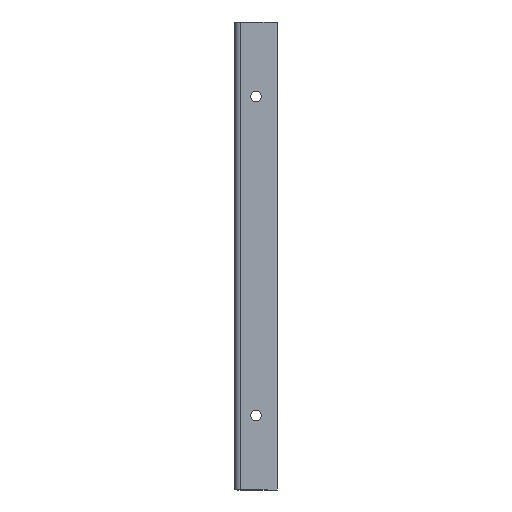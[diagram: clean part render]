
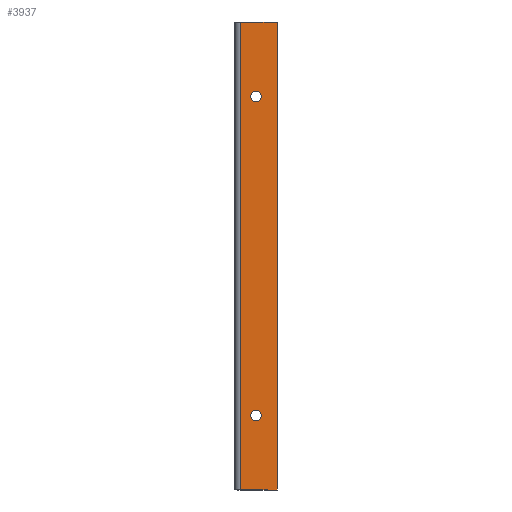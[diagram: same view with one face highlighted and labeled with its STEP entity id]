
A CAD part, front view. The second image highlights one B-rep face of the part: STEP entity #3937.
In plain terms, the highlighted planar face has unit normal (0, -1, 0).
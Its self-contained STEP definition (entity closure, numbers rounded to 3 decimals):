
#183 = CIRCLE ( 'NONE', #2557, 2.5 ) ;
#226 = DIRECTION ( 'NONE',  ( 0., -1., 0. ) ) ;
#238 = LINE ( 'NONE', #1381, #1049 ) ;
#325 = CARTESIAN_POINT ( 'NONE',  ( 120., -2., -120. ) ) ;
#341 = CIRCLE ( 'NONE', #4380, 2.5 ) ;
#410 = CARTESIAN_POINT ( 'NONE',  ( 102.736, -2., 100. ) ) ;
#418 = CARTESIAN_POINT ( 'NONE',  ( 120., -2., 100. ) ) ;
#544 = EDGE_CURVE ( 'NONE', #6495, #3297, #341, .T. ) ;
#555 = DIRECTION ( 'NONE',  ( 0., 0., -1. ) ) ;
#681 = CARTESIAN_POINT ( 'NONE',  ( 110., -2., 67.5 ) ) ;
#733 = ORIENTED_EDGE ( 'NONE', *, *, #544, .F. ) ;
#917 = VERTEX_POINT ( 'NONE', #3060 ) ;
#962 = DIRECTION ( 'NONE',  ( 0., 0., -1. ) ) ;
#1049 = VECTOR ( 'NONE', #5491, 1000. ) ;
#1334 = AXIS2_PLACEMENT_3D ( 'NONE', #3384, #3989, #555 ) ;
#1381 = CARTESIAN_POINT ( 'NONE',  ( 120., -2., -120. ) ) ;
#1423 = LINE ( 'NONE', #418, #6175 ) ;
#1633 = DIRECTION ( 'NONE',  ( 0., 0., -1. ) ) ;
#1835 = CIRCLE ( 'NONE', #1334, 2.5 ) ;
#1848 = ORIENTED_EDGE ( 'NONE', *, *, #3679, .F. ) ;
#1890 = CARTESIAN_POINT ( 'NONE',  ( 102.736, -2., -120. ) ) ;
#1916 = ORIENTED_EDGE ( 'NONE', *, *, #2168, .F. ) ;
#1997 = VERTEX_POINT ( 'NONE', #4488 ) ;
#2101 = FACE_BOUND ( 'NONE', #5511, .T. ) ;
#2168 = EDGE_CURVE ( 'NONE', #6797, #2183, #238, .T. ) ;
#2183 = VERTEX_POINT ( 'NONE', #1890 ) ;
#2338 = VECTOR ( 'NONE', #3847, 1000. ) ;
#2455 = EDGE_CURVE ( 'NONE', #1997, #2183, #4396, .T. ) ;
#2557 = AXIS2_PLACEMENT_3D ( 'NONE', #2563, #6037, #7195 ) ;
#2563 = CARTESIAN_POINT ( 'NONE',  ( 110., -2., 65. ) ) ;
#2617 = EDGE_LOOP ( 'NONE', ( #4981, #733 ) ) ;
#2691 = EDGE_LOOP ( 'NONE', ( #3042, #3143, #1916, #7392 ) ) ;
#3042 = ORIENTED_EDGE ( 'NONE', *, *, #7015, .F. ) ;
#3060 = CARTESIAN_POINT ( 'NONE',  ( 110., -2., -87.5 ) ) ;
#3096 = CARTESIAN_POINT ( 'NONE',  ( 110., -2., -85. ) ) ;
#3143 = ORIENTED_EDGE ( 'NONE', *, *, #2455, .T. ) ;
#3208 = ORIENTED_EDGE ( 'NONE', *, *, #5058, .F. ) ;
#3266 = CARTESIAN_POINT ( 'NONE',  ( 120., -2., 100. ) ) ;
#3297 = VERTEX_POINT ( 'NONE', #681 ) ;
#3384 = CARTESIAN_POINT ( 'NONE',  ( 110., -2., -85. ) ) ;
#3516 = AXIS2_PLACEMENT_3D ( 'NONE', #3598, #226, #3624 ) ;
#3598 = CARTESIAN_POINT ( 'NONE',  ( 120., -2., 100. ) ) ;
#3619 = DIRECTION ( 'NONE',  ( 0., 0., -1. ) ) ;
#3624 = DIRECTION ( 'NONE',  ( -1., 0., 0. ) ) ;
#3679 = EDGE_CURVE ( 'NONE', #6348, #917, #1835, .T. ) ;
#3816 = FACE_BOUND ( 'NONE', #2617, .T. ) ;
#3847 = DIRECTION ( 'NONE',  ( 1., 0., 0. ) ) ;
#3937 = ADVANCED_FACE ( 'NONE', ( #2101, #3816, #6564 ), #4764, .T. ) ;
#3989 = DIRECTION ( 'NONE',  ( 0., -1., 0. ) ) ;
#4257 = DIRECTION ( 'NONE',  ( 0., -1., 0. ) ) ;
#4380 = AXIS2_PLACEMENT_3D ( 'NONE', #6080, #5609, #6733 ) ;
#4396 = LINE ( 'NONE', #410, #7317 ) ;
#4488 = CARTESIAN_POINT ( 'NONE',  ( 102.736, -2., 100. ) ) ;
#4764 = PLANE ( 'NONE',  #3516 ) ;
#4981 = ORIENTED_EDGE ( 'NONE', *, *, #5101, .F. ) ;
#5058 = EDGE_CURVE ( 'NONE', #917, #6348, #6544, .T. ) ;
#5074 = CARTESIAN_POINT ( 'NONE',  ( 110., -2., 62.5 ) ) ;
#5101 = EDGE_CURVE ( 'NONE', #3297, #6495, #183, .T. ) ;
#5157 = CARTESIAN_POINT ( 'NONE',  ( 120., -2., 100. ) ) ;
#5292 = AXIS2_PLACEMENT_3D ( 'NONE', #3096, #4257, #3619 ) ;
#5491 = DIRECTION ( 'NONE',  ( -1., 0., 0. ) ) ;
#5511 = EDGE_LOOP ( 'NONE', ( #1848, #3208 ) ) ;
#5609 = DIRECTION ( 'NONE',  ( 0., -1., 0. ) ) ;
#5623 = CARTESIAN_POINT ( 'NONE',  ( 110., -2., -82.5 ) ) ;
#5884 = EDGE_CURVE ( 'NONE', #5994, #6797, #1423, .T. ) ;
#5994 = VERTEX_POINT ( 'NONE', #5157 ) ;
#6037 = DIRECTION ( 'NONE',  ( 0., -1., 0. ) ) ;
#6080 = CARTESIAN_POINT ( 'NONE',  ( 110., -2., 65. ) ) ;
#6175 = VECTOR ( 'NONE', #962, 1000. ) ;
#6348 = VERTEX_POINT ( 'NONE', #5623 ) ;
#6495 = VERTEX_POINT ( 'NONE', #5074 ) ;
#6544 = CIRCLE ( 'NONE', #5292, 2.5 ) ;
#6564 = FACE_OUTER_BOUND ( 'NONE', #2691, .T. ) ;
#6733 = DIRECTION ( 'NONE',  ( 0., 0., -1. ) ) ;
#6797 = VERTEX_POINT ( 'NONE', #325 ) ;
#6818 = LINE ( 'NONE', #3266, #2338 ) ;
#7015 = EDGE_CURVE ( 'NONE', #1997, #5994, #6818, .T. ) ;
#7195 = DIRECTION ( 'NONE',  ( 0., 0., -1. ) ) ;
#7317 = VECTOR ( 'NONE', #1633, 1000. ) ;
#7392 = ORIENTED_EDGE ( 'NONE', *, *, #5884, .F. ) ;
